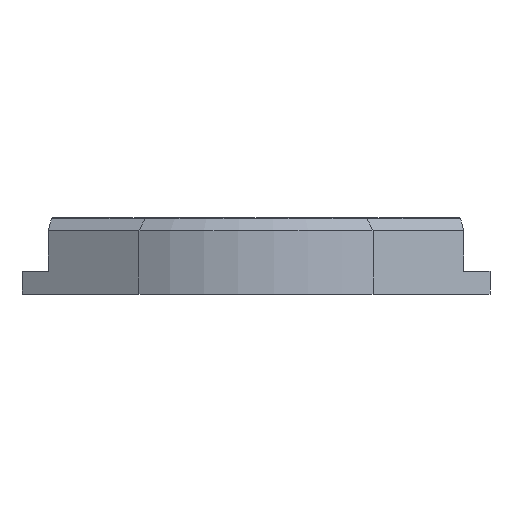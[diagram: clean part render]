
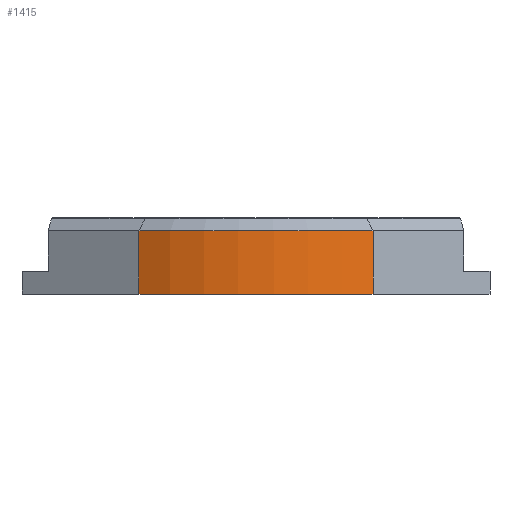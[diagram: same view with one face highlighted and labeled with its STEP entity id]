
A CAD part, front view. The second image highlights one B-rep face of the part: STEP entity #1415.
In plain terms, the highlighted cylindrical face has radius 45 mm (diameter 90 mm), a partial arc.
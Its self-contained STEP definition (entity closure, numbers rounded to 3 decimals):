
#42=CYLINDRICAL_SURFACE('',#1577,45.);
#194=FACE_OUTER_BOUND('',#297,.T.);
#297=EDGE_LOOP('',(#1278,#1279,#1280,#1281));
#413=LINE('',#2350,#534);
#434=LINE('',#2405,#555);
#534=VECTOR('',#1928,10.);
#555=VECTOR('',#1989,10.);
#626=CIRCLE('',#1575,45.);
#627=CIRCLE('',#1578,45.);
#728=VERTEX_POINT('',#2340);
#731=VERTEX_POINT('',#2348);
#737=VERTEX_POINT('',#2370);
#745=VERTEX_POINT('',#2404);
#905=EDGE_CURVE('',#728,#731,#413,.T.);
#930=EDGE_CURVE('',#728,#737,#626,.T.);
#931=EDGE_CURVE('',#737,#745,#434,.T.);
#933=EDGE_CURVE('',#745,#731,#627,.T.);
#1278=ORIENTED_EDGE('',*,*,#930,.F.);
#1279=ORIENTED_EDGE('',*,*,#905,.T.);
#1280=ORIENTED_EDGE('',*,*,#933,.F.);
#1281=ORIENTED_EDGE('',*,*,#931,.F.);
#1415=ADVANCED_FACE('',(#194),#42,.T.);
#1575=AXIS2_PLACEMENT_3D('',#2402,#1985,#1986);
#1577=AXIS2_PLACEMENT_3D('',#2407,#1991,#1992);
#1578=AXIS2_PLACEMENT_3D('',#2408,#1993,#1994);
#1928=DIRECTION('',(0.,0.,-1.));
#1985=DIRECTION('center_axis',(0.,0.,1.));
#1986=DIRECTION('ref_axis',(-0.511,-0.859,0.));
#1989=DIRECTION('',(0.,0.,-1.));
#1991=DIRECTION('center_axis',(0.,0.,-1.));
#1992=DIRECTION('ref_axis',(-0.511,-0.859,0.));
#1993=DIRECTION('center_axis',(0.,0.,-1.));
#1994=DIRECTION('ref_axis',(-0.511,-0.859,0.));
#2340=CARTESIAN_POINT('',(-93.003,78.589,-5.5));
#2348=CARTESIAN_POINT('',(-93.003,78.589,-18.));
#2350=CARTESIAN_POINT('',(-93.003,78.589,0.));
#2370=CARTESIAN_POINT('',(-47.,78.589,-5.5));
#2402=CARTESIAN_POINT('Origin',(-70.002,117.266,-5.5));
#2404=CARTESIAN_POINT('',(-47.,78.589,-18.));
#2405=CARTESIAN_POINT('',(-47.,78.589,0.));
#2407=CARTESIAN_POINT('Origin',(-70.002,117.266,0.));
#2408=CARTESIAN_POINT('Origin',(-70.002,117.266,-18.));
